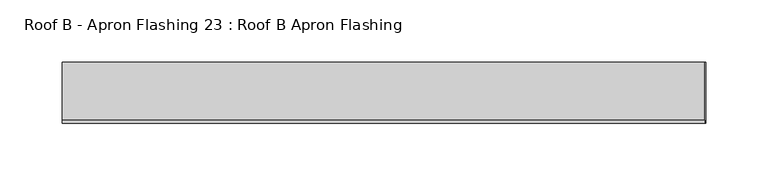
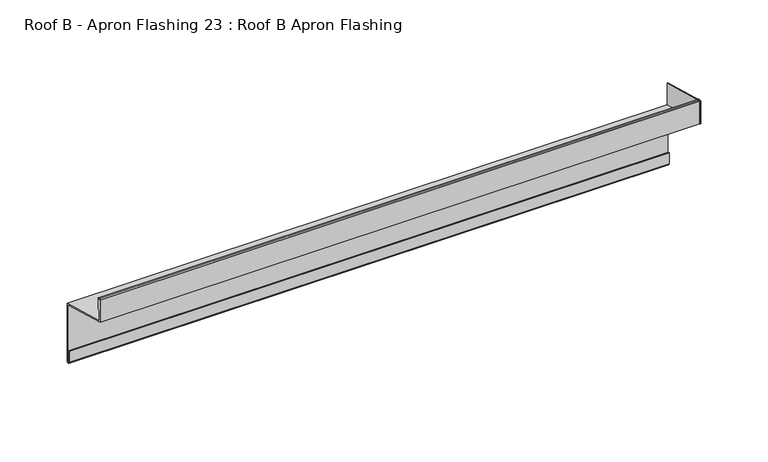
"""IFC4 building model written with IfcOpenShell, lengths in millimetres: proxy geometry, Roof B - Apron Flashing 23 : Roof B Apron Flashing."""

from ifc_helpers import new_model, si_unit, point, frame, frame_2d, origin, place, context, project, spatial, polyline, circle_curve, trimmed, segment, composite_curve, outline, extrude, source, transform, mapped, element, save


def roof_b_apron_flashing_23_roof_b_apron_flashing_f3549268(model_context):
    return source(origin(), model_context, "Body", "SweptSolid", [
        extrude(outline(polyline([(-23696.5446624, -873.6339834), (-23696.5446624, -853.130654), (-23647.7910321, -866.1941499), (-23647.7910321, -886.6974792), (-23696.5446624, -873.6339834)])), frame((8372.2186679, 0.0, 0.0), z_axis=(1.0, 0.0, 0.0), x_axis=(0.0, 1.0, 0.0)), (0.0, 0.0, 1.0), 0.8428395),
        extrude(outline(composite_curve([segment(polyline([(-23647.7910321, -885.662203), (-23647.7910321, -937.6563748)]), True, "CONTINUOUS"), segment(trimmed(circle_curve(frame_2d((-23649.2910321, -937.6563748)), 1.5), [point((-23647.7910321, -937.6563748))], [point((-23650.7910321, -937.6563748))], False, "CARTESIAN"), True, "CONTINUOUS"), segment(polyline([(-23650.7910321, -937.6563748), (-23650.7910321, -927.6933761), (-23649.7910321, -927.6933761), (-23649.7910321, -937.6563748)]), True, "CONTINUOUS"), segment(trimmed(circle_curve(frame_2d((-23649.2910321, -937.6563748)), 0.5), [point((-23649.7910321, -937.6563748))], [point((-23648.7910321, -937.6563748))], True, "CARTESIAN"), True, "CONTINUOUS"), segment(polyline([(-23648.7910321, -937.6563748), (-23648.7910321, -886.42953), (-23696.5446624, -873.6339834), (-23696.5446624, -853.3538686)]), True, "CONTINUOUS"), segment(trimmed(circle_curve(frame_2d((-23695.2946624, -853.3538686)), 1.25), [point((-23696.5446624, -853.3538686))], [point((-23694.0446624, -853.3538686))], False, "CARTESIAN"), True, "CONTINUOUS"), segment(polyline([(-23694.0446624, -853.3538686), (-23694.0446624, -862.6360034)]), True, "CONTINUOUS"), segment(trimmed(circle_curve(frame_2d((-23694.5446624, -862.6360034)), 0.5), [point((-23694.0446624, -862.6360034))], [point((-23695.0446624, -862.6360034))], False, "CARTESIAN"), True, "CONTINUOUS"), segment(polyline([(-23695.0446624, -862.6360034), (-23695.0446624, -853.3538686)]), True, "CONTINUOUS"), segment(trimmed(circle_curve(frame_2d((-23695.2946624, -853.3538686)), 0.25), [point((-23695.0446624, -853.3538686))], [point((-23695.5446624, -853.3538686))], True, "CARTESIAN"), True, "CONTINUOUS"), segment(polyline([(-23695.5446624, -853.3538686), (-23695.5446624, -872.8666564), (-23647.7910321, -885.662203)]), True, "CONTINUOUS")], self_intersect=False)), frame((7857.2186679, 0.0, 0.0), z_axis=(1.0, 0.0, 0.0), x_axis=(0.0, 1.0, 0.0)), (0.0, 0.0, 1.0), 515.0),
    ])


if __name__ == "__main__":
    model = new_model("IFC4")
    model_context = context("Model", 3, world=origin())
    ifc_project = project(units=[si_unit("LENGTHUNIT", "METRE", prefix="MILLI")], contexts=[model_context])
    site = spatial("IfcSite", under=ifc_project)
    building = spatial("IfcBuilding", under=site)
    placement = place(None, origin())
    roof_b_apron_flashing_23_roof_b_apron_flashing_shape = roof_b_apron_flashing_23_roof_b_apron_flashing_f3549268(model_context)
    element("IfcBuildingElementProxy", 1, Name="Roof B - Apron Flashing 23 : Roof B Apron Flashing", ObjectType="Roof B - Apron Flashing 23 : Roof B Apron Flashing", at=placement, inside=building, context=model_context, shape_type="MappedRepresentation", body=[
        mapped(roof_b_apron_flashing_23_roof_b_apron_flashing_shape, transform((0.0, 0.0, 0.0), x_axis=(1.0, 0.0, 0.0), y_axis=(0.0, 1.0, 0.0), z_axis=(0.0, 0.0, 1.0))),
    ])
    save(model, "model.ifc")
